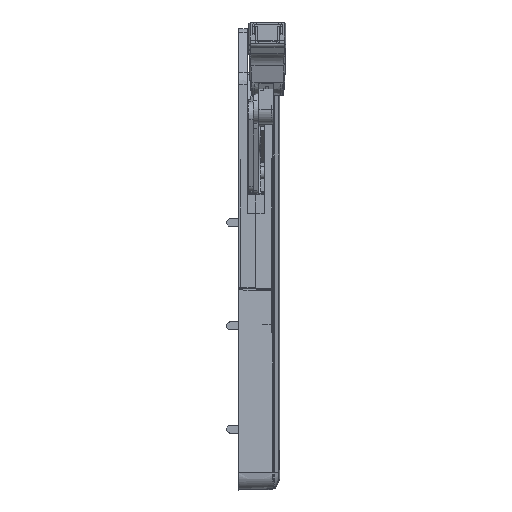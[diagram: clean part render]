
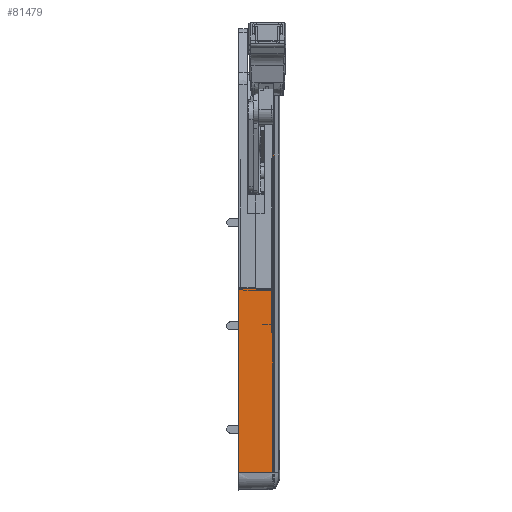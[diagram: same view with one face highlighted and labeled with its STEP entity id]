
A CAD part, front view. The second image highlights one B-rep face of the part: STEP entity #81479.
In plain terms, the highlighted planar face has unit normal (0.035, -0.999, 0).
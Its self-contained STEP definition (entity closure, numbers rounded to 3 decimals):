
#68036=CARTESIAN_POINT('',(0.,-116.984,-160.526));
#68047=DIRECTION('',(0.,0.,-1.));
#68048=VECTOR('',#68047,114.477);
#68049=CARTESIAN_POINT('',(0.,-116.984,-160.526));
#68050=LINE('',#68049,#68048);
#68269=DIRECTION('',(0.,0.,-1.));
#68270=VECTOR('',#68269,126.41);
#68271=CARTESIAN_POINT('',(21.,-116.251,-34.648));
#68272=LINE('',#68271,#68270);
#69730=CARTESIAN_POINT('',(21.,-116.25,-161.058));
#69735=DIRECTION('',(-0.999,-0.035,0.025));
#69736=VECTOR('',#69735,21.02);
#69737=CARTESIAN_POINT('',(21.,-116.25,-161.058));
#69738=LINE('',#69737,#69736);
#69742=DIRECTION('',(-0.999,-0.035,0.));
#69743=VECTOR('',#69742,0.549);
#69744=CARTESIAN_POINT('',(21.549,-116.231,
-34.648));
#69745=LINE('',#69744,#69743);
#69749=DIRECTION('',(0.,0.,-1.));
#69750=VECTOR('',#69749,240.354);
#69751=CARTESIAN_POINT('',(21.549,-116.231,
-34.648));
#69752=LINE('',#69751,#69750);
#69756=DIRECTION('',(-0.999,-0.035,0.));
#69757=VECTOR('',#69756,21.562);
#69758=CARTESIAN_POINT('',(21.549,-116.231,
-275.002));
#69759=LINE('',#69758,#69757);
#69773=CARTESIAN_POINT('',(21.,-116.251,-34.648));
#69793=CARTESIAN_POINT('',(21.549,-116.231,
-34.648));
#78537=VERTEX_POINT('',#69730);
#78647=VERTEX_POINT('',#69793);
#78650=CARTESIAN_POINT('',(21.549,-116.231,
-275.002));
#78651=VERTEX_POINT('',#78650);
#78674=CARTESIAN_POINT('',(0.,-116.984,
-275.002));
#78675=VERTEX_POINT('',#78674);
#78684=VERTEX_POINT('',#69773);
#78694=VERTEX_POINT('',#68036);
#81463=CARTESIAN_POINT('',(21.844,-116.221,-275.));
#81464=DIRECTION('',(0.035,-0.999,0.));
#81465=DIRECTION('',(0.,0.,1.));
#81466=AXIS2_PLACEMENT_3D('',#81463,#81464,#81465);
#81467=PLANE('',#81466);
#81468=ORIENTED_EDGE('',*,*,#81456,.F.);
#81469=ORIENTED_EDGE('',*,*,#79752,.F.);
#81471=ORIENTED_EDGE('',*,*,#81470,.F.);
#81473=ORIENTED_EDGE('',*,*,#81472,.T.);
#81475=ORIENTED_EDGE('',*,*,#81474,.T.);
#81476=ORIENTED_EDGE('',*,*,#79603,.F.);
#81477=EDGE_LOOP('',(#81468,#81469,#81471,#81473,#81475,#81476));
#81478=FACE_OUTER_BOUND('',#81477,.F.);
#81479=ADVANCED_FACE('',(#81478),#81467,.T.);
#79603=EDGE_CURVE('',#78694,#78675,#68050,.T.);
#79752=EDGE_CURVE('',#78684,#78537,#68272,.T.);
#81456=EDGE_CURVE('',#78537,#78694,#69738,.T.);
#81470=EDGE_CURVE('',#78647,#78684,#69745,.T.);
#81472=EDGE_CURVE('',#78647,#78651,#69752,.T.);
#81474=EDGE_CURVE('',#78651,#78675,#69759,.T.);
